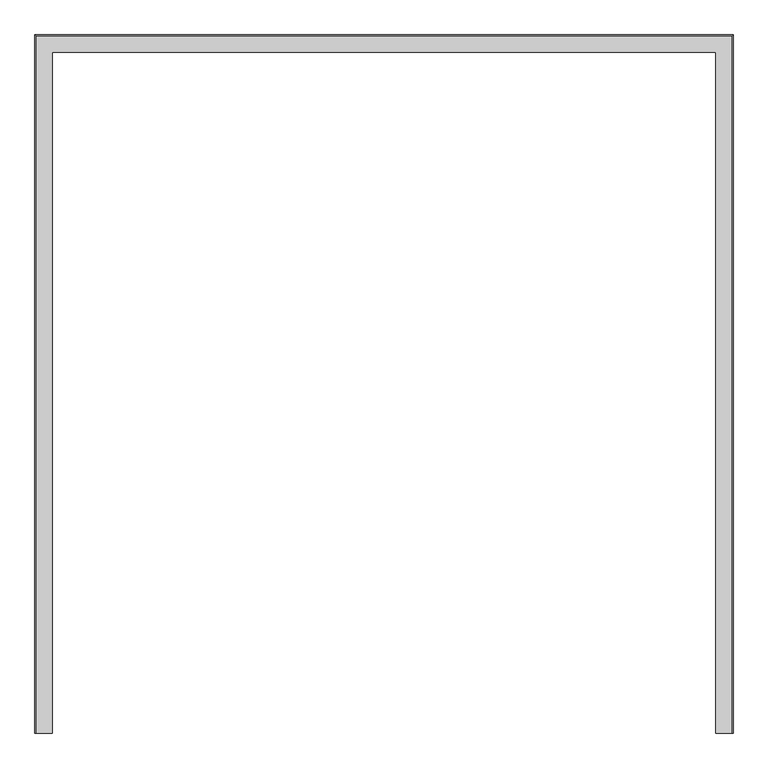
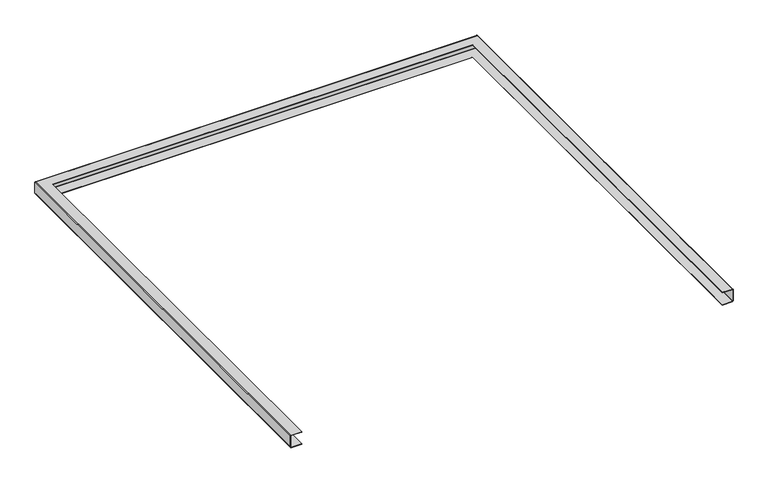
"""IFC4 building model written with IfcOpenShell, lengths in millimetres: proxy geometry, Прямоугольный профиль : Прямоугольный профиль."""

from ifc_helpers import new_model, si_unit, frame, origin, place, context, project, spatial, polyline, circle_curve, ellipse_curve, source, transform, mapped, element, save
from ifc_brep_helpers import plane_surface, cylinder_surface, revolved_surface, advanced_brep


def generic_models_0df9e60e(model_context):
    return source(origin(), model_context, "Body", "AdvancedBrep", [
        advanced_brep(
        [(8009.3446892, -18.5447657, -339.5), (8009.3446892, -18.5447657, -338.5), (7986.3446892, -18.5447657, -338.5), (7985.3446892, -18.5447657, -337.5), (7985.3446892, -18.5447657, -311.5), (7986.3446892, -18.5447657, -310.5), (8009.3446892, -18.5447657, -310.5), (8009.3446892, -18.5447657, -309.5), (7986.3446892, -18.5447657, -309.5), (7984.3446892, -18.5447657, -311.5), (7984.3446892, -18.5447657, -337.5), (7986.3446892, -18.5447657, -339.5), (8009.3446892, 956.4552343, -339.5), (8009.3446892, 956.4552343, -338.5), (8959.3446892, 956.4552343, -338.5), (8959.3446892, -18.5447657, -338.5), (8982.3446892, -18.5447657, -338.5), (8982.3446892, 979.4552343, -338.5), (7986.3446892, 979.4552343, -338.5), (7985.3446892, 980.4552343, -337.5), (7985.3446892, 980.4552343, -311.5), (7986.3446892, 979.4552343, -310.5), (8982.3446892, 979.4552343, -310.5), (8982.3446892, -18.5447657, -310.5), (8959.3446892, -18.5447657, -310.5), (8959.3446892, 956.4552343, -310.5), (8009.3446892, 956.4552343, -310.5), (8009.3446892, 956.4552343, -309.5), (8959.3446892, 956.4552343, -309.5), (8959.3446892, -18.5447657, -309.5), (8982.3446892, -18.5447657, -309.5), (8982.3446892, 979.4552343, -309.5), (7986.3446892, 979.4552343, -309.5), (7984.3446892, 981.4552343, -311.5), (7984.3446892, 981.4552343, -337.5), (7986.3446892, 979.4552343, -339.5), (8982.3446892, 979.4552343, -339.5), (8982.3446892, -18.5447657, -339.5), (8959.3446892, -18.5447657, -339.5), (8959.3446892, 956.4552343, -339.5), (8983.3446892, 980.4552343, -337.5), (8983.3446892, 980.4552343, -311.5), (8984.3446892, 981.4552343, -311.5), (8984.3446892, 981.4552343, -337.5), (8984.3446892, -18.5447657, -337.5), (8984.3446892, -18.5447657, -311.5), (8983.3446892, -18.5447657, -311.5), (8983.3446892, -18.5447657, -337.5)],
        [
            (0, 1),
            (1, 2),
            (2, 3, circle_curve(frame((7986.3446892, -18.5447657, -337.5), z_axis=(0.0, 1.0, 0.0), x_axis=(-1.0, 0.0, 0.0)), 1.0)),
            (3, 4),
            (4, 5, circle_curve(frame((7986.3446892, -18.5447657, -311.5), z_axis=(0.0, 1.0, 0.0), x_axis=(-1.0, 0.0, 0.0)), 1.0)),
            (5, 6),
            (6, 7),
            (7, 8),
            (8, 9, circle_curve(frame((7986.3446892, -18.5447657, -311.5), z_axis=(0.0, -1.0, 0.0), x_axis=(-1.0, 0.0, 0.0)), 2.0)),
            (9, 10),
            (10, 11, circle_curve(frame((7986.3446892, -18.5447657, -337.5), z_axis=(0.0, -1.0, 0.0), x_axis=(-1.0, 0.0, 0.0)), 2.0)),
            (11, 0),
            (0, 12),
            (12, 13),
            (13, 1),
            (13, 14),
            (14, 15),
            (15, 16),
            (16, 17),
            (17, 18),
            (18, 2),
            (3, 19),
            (19, 20),
            (20, 4),
            (5, 21),
            (21, 22),
            (22, 23),
            (23, 24),
            (24, 25),
            (25, 26),
            (26, 6),
            (26, 27),
            (27, 7),
            (27, 28),
            (28, 29),
            (29, 30),
            (30, 31),
            (31, 32),
            (32, 8),
            (9, 33),
            (33, 34),
            (34, 10),
            (11, 35),
            (35, 36),
            (36, 37),
            (37, 38),
            (38, 39),
            (39, 12),
            (39, 14),
            (19, 40),
            (40, 41),
            (41, 20),
            (25, 28),
            (33, 42),
            (42, 43),
            (43, 34),
            (37, 44, circle_curve(frame((8982.3446892, -18.5447657, -337.5), z_axis=(0.0, -1.0, 0.0), x_axis=(1.0, 0.0, 0.0)), 2.0)),
            (44, 45),
            (45, 30, circle_curve(frame((8982.3446892, -18.5447657, -311.5), z_axis=(0.0, -1.0, 0.0), x_axis=(1.0, 0.0, 0.0)), 2.0)),
            (29, 24),
            (23, 46, circle_curve(frame((8982.3446892, -18.5447657, -311.5), z_axis=(0.0, 1.0, 0.0), x_axis=(1.0, 0.0, 0.0)), 1.0)),
            (46, 47),
            (47, 16, circle_curve(frame((8982.3446892, -18.5447657, -337.5), z_axis=(0.0, 1.0, 0.0), x_axis=(1.0, 0.0, 0.0)), 1.0)),
            (15, 38),
            (40, 47),
            (46, 41),
            (42, 45),
            (44, 43),
            (18, 19, ellipse_curve(frame((7986.3446892, 979.4552343, -337.5), z_axis=(0.7071067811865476, 0.7071067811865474, 0.0), x_axis=(-0.7071067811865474, 0.7071067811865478, 0.0)), 1.4142136, 1.0)),
            (20, 21, ellipse_curve(frame((7986.3446892, 979.4552343, -311.5), z_axis=(0.7071067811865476, 0.7071067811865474, 0.0), x_axis=(-0.7071067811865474, 0.7071067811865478, 0.0)), 1.4142136, 1.0)),
            (32, 33, ellipse_curve(frame((7986.3446892, 979.4552343, -311.5), z_axis=(-0.7071067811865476, -0.7071067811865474, 0.0), x_axis=(0.7071067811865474, -0.7071067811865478, 0.0)), 2.8284271, 2.0)),
            (34, 35, ellipse_curve(frame((7986.3446892, 979.4552343, -337.5), z_axis=(-0.7071067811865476, -0.7071067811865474, 0.0), x_axis=(0.7071067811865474, -0.7071067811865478, 0.0)), 2.8284271, 2.0)),
            (17, 40, ellipse_curve(frame((8982.3446892, 979.4552343, -337.5), z_axis=(0.7071067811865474, -0.7071067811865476, 0.0), x_axis=(0.7071067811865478, 0.7071067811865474, 0.0)), 1.4142136, 1.0)),
            (41, 22, ellipse_curve(frame((8982.3446892, 979.4552343, -311.5), z_axis=(0.7071067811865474, -0.7071067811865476, 0.0), x_axis=(0.7071067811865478, 0.7071067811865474, 0.0)), 1.4142136, 1.0)),
            (31, 42, ellipse_curve(frame((8982.3446892, 979.4552343, -311.5), z_axis=(-0.7071067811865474, 0.7071067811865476, 0.0), x_axis=(-0.7071067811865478, -0.7071067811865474, 0.0)), 2.8284271, 2.0)),
            (43, 36, ellipse_curve(frame((8982.3446892, 979.4552343, -337.5), z_axis=(-0.7071067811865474, 0.7071067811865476, 0.0), x_axis=(-0.7071067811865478, -0.7071067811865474, 0.0)), 2.8284271, 2.0)),
        ],
        [
            plane_surface(frame((7984.3446892, -18.5447657, -339.5), z_axis=(0.0, -1.0, 0.0), x_axis=(0.0, 0.0, 1.0))),
            plane_surface(frame((8009.3446892, -18.5447657, -339.5), z_axis=(1.0, 0.0, 0.0), x_axis=(0.0, 1.0, 0.0))),
            plane_surface(frame((8009.3446892, -18.5447657, -338.5), z_axis=(0.0, 0.0, 1.0), x_axis=(0.0, 1.0, 0.0))),
            plane_surface(frame((7985.3446892, -18.5447657, -337.5), z_axis=(1.0, 0.0, 0.0), x_axis=(0.0, 1.0, 0.0))),
            plane_surface(frame((7986.3446892, -18.5447657, -310.5), z_axis=(0.0, 0.0, -1.0), x_axis=(0.0, 1.0, 0.0))),
            plane_surface(frame((8009.3446892, -18.5447657, -310.5), z_axis=(1.0, 0.0, 0.0), x_axis=(0.0, 1.0, 0.0))),
            plane_surface(frame((8009.3446892, -18.5447657, -309.5), z_axis=(0.0, 0.0, 1.0), x_axis=(0.0, 1.0, 0.0))),
            plane_surface(frame((7984.3446892, -18.5447657, -311.5), z_axis=(-1.0, 0.0, 0.0), x_axis=(0.0, 1.0, 0.0))),
            plane_surface(frame((7986.3446892, -18.5447657, -339.5), z_axis=(0.0, 0.0, -1.0), x_axis=(0.0, 1.0, 0.0))),
            plane_surface(frame((8009.3446892, 956.4552343, -339.5), z_axis=(0.0, -1.0, 0.0), x_axis=(1.0, 0.0, 0.0))),
            plane_surface(frame((7985.3446892, 980.4552343, -337.5), z_axis=(0.0, -1.0, 0.0), x_axis=(1.0, 0.0, 0.0))),
            plane_surface(frame((8009.3446892, 956.4552343, -310.5), z_axis=(0.0, -1.0, 0.0), x_axis=(1.0, 0.0, 0.0))),
            plane_surface(frame((7984.3446892, 981.4552343, -311.5), z_axis=(0.0, 1.0, 0.0), x_axis=(1.0, 0.0, 0.0))),
            plane_surface(frame((8984.3446892, -18.5447657, -339.5), z_axis=(0.0, -1.0, 0.0), x_axis=(0.0, 0.0, 1.0))),
            plane_surface(frame((8959.3446892, 956.4552343, -339.5), z_axis=(-1.0, 0.0, 0.0), x_axis=(0.0, -1.0, 0.0))),
            plane_surface(frame((8983.3446892, 980.4552343, -337.5), z_axis=(-1.0, 0.0, 0.0), x_axis=(0.0, -1.0, 0.0))),
            plane_surface(frame((8959.3446892, 956.4552343, -310.5), z_axis=(-1.0, 0.0, 0.0), x_axis=(0.0, -1.0, 0.0))),
            plane_surface(frame((8984.3446892, 981.4552343, -311.5), z_axis=(1.0, 0.0, 0.0), x_axis=(0.0, -1.0, 0.0))),
            revolved_surface(polyline([(7985.3446892, 980.4552343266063, -337.5), (7985.3446892, -18.5447657, -337.5)]), (7986.3446892, -18.5447657, -337.5), (0.0, 1.0, 0.0)),
            revolved_surface(polyline([(7985.3446892, 980.4552343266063, -311.5), (7985.3446892, -18.5447657, -311.5)]), (7986.3446892, -18.5447657, -311.5), (0.0, 1.0, 0.0)),
            cylinder_surface(frame((7986.3446892, -18.5447657, -311.5), z_axis=(0.0, -1.0, 0.0), x_axis=(-1.0, 0.0, 0.0)), 2.0),
            cylinder_surface(frame((7986.3446892, -18.5447657, -337.5), z_axis=(0.0, -1.0, 0.0), x_axis=(-1.0, 0.0, 0.0)), 2.0),
            revolved_surface(polyline([(8983.344689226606, 980.4552343, -337.5), (7985.344689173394, 980.4552343, -337.5)]), (7984.3446892, 979.4552343, -337.5), (1.0, 0.0, 0.0)),
            revolved_surface(polyline([(8983.344689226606, 980.4552343, -311.5), (7985.344689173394, 980.4552343, -311.5)]), (7984.3446892, 979.4552343, -311.5), (1.0, 0.0, 0.0)),
            cylinder_surface(frame((7984.3446892, 979.4552343, -311.5), z_axis=(-1.0, 0.0, 0.0), x_axis=(0.0, 1.0, 0.0)), 2.0),
            cylinder_surface(frame((7984.3446892, 979.4552343, -337.5), z_axis=(-1.0, 0.0, 0.0), x_axis=(0.0, 1.0, 0.0)), 2.0),
            revolved_surface(polyline([(8983.3446892, -18.54476569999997, -337.5), (8983.3446892, 980.4552343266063, -337.5)]), (8982.3446892, 981.4552343, -337.5), (0.0, -1.0, 0.0)),
            revolved_surface(polyline([(8983.3446892, -18.54476569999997, -311.5), (8983.3446892, 980.4552343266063, -311.5)]), (8982.3446892, 981.4552343, -311.5), (0.0, -1.0, 0.0)),
            cylinder_surface(frame((8982.3446892, 981.4552343, -311.5), z_axis=(0.0, 1.0, 0.0), x_axis=(1.0, 0.0, 0.0)), 2.0),
            cylinder_surface(frame((8982.3446892, 981.4552343, -337.5), z_axis=(0.0, 1.0, 0.0), x_axis=(1.0, 0.0, 0.0)), 2.0),
        ],
        [
            (0, [[1, 2, 3, 4, 5, 6, 7, 8, 9, 10, 11, 12]]),
            (1, [[-1, 13, 14, 15]]),
            (2, [[-2, -15, 16, 17, 18, 19, 20, 21]]),
            (3, [[-4, 22, 23, 24]]),
            (4, [[-6, 25, 26, 27, 28, 29, 30, 31]]),
            (5, [[-7, -31, 32, 33]]),
            (6, [[-8, -33, 34, 35, 36, 37, 38, 39]]),
            (7, [[-10, 40, 41, 42]]),
            (8, [[-12, 43, 44, 45, 46, 47, 48, -13]]),
            (9, [[-14, -48, 49, -16]]),
            (10, [[-23, 50, 51, 52]]),
            (11, [[-32, -30, 53, -34]]),
            (12, [[-41, 54, 55, 56]]),
            (13, [[-46, 57, 58, 59, -36, 60, -28, 61, 62, 63, -18, 64]]),
            (14, [[-49, -47, -64, -17]]),
            (15, [[-51, 65, -62, 66]]),
            (16, [[-53, -29, -60, -35]]),
            (17, [[-55, 67, -58, 68]]),
            (18, [[-3, -21, 69, -22]]),
            (19, [[-5, -24, 70, -25]]),
            (20, [[-9, -39, 71, -40]]),
            (21, [[-11, -42, 72, -43]]),
            (22, [[-69, -20, 73, -50]]),
            (23, [[-70, -52, 74, -26]]),
            (24, [[-71, -38, 75, -54]]),
            (25, [[-72, -56, 76, -44]]),
            (26, [[-73, -19, -63, -65]]),
            (27, [[-74, -66, -61, -27]]),
            (28, [[-75, -37, -59, -67]]),
            (29, [[-76, -68, -57, -45]]),
        ],
    ),
    ])


if __name__ == "__main__":
    model = new_model("IFC4")
    model_context = context("Model", 3, world=origin())
    ifc_project = project(units=[si_unit("LENGTHUNIT", "METRE", prefix="MILLI")], contexts=[model_context])
    site = spatial("IfcSite", under=ifc_project)
    building = spatial("IfcBuilding", under=site)
    placement = place(None, origin())
    generic_models_shape = generic_models_0df9e60e(model_context)
    element("IfcBuildingElementProxy", 1, Name="Прямоугольный профиль : Прямоугольный профиль", ObjectType="Прямоугольный профиль : Прямоугольный профиль", at=placement, inside=building, context=model_context, shape_type="MappedRepresentation", body=[
        mapped(generic_models_shape, transform((0.0, 0.0, 0.0), x_axis=(1.0, 0.0, 0.0), y_axis=(0.0, 1.0, 0.0), z_axis=(0.0, 0.0, 1.0))),
    ])
    save(model, "model.ifc")
